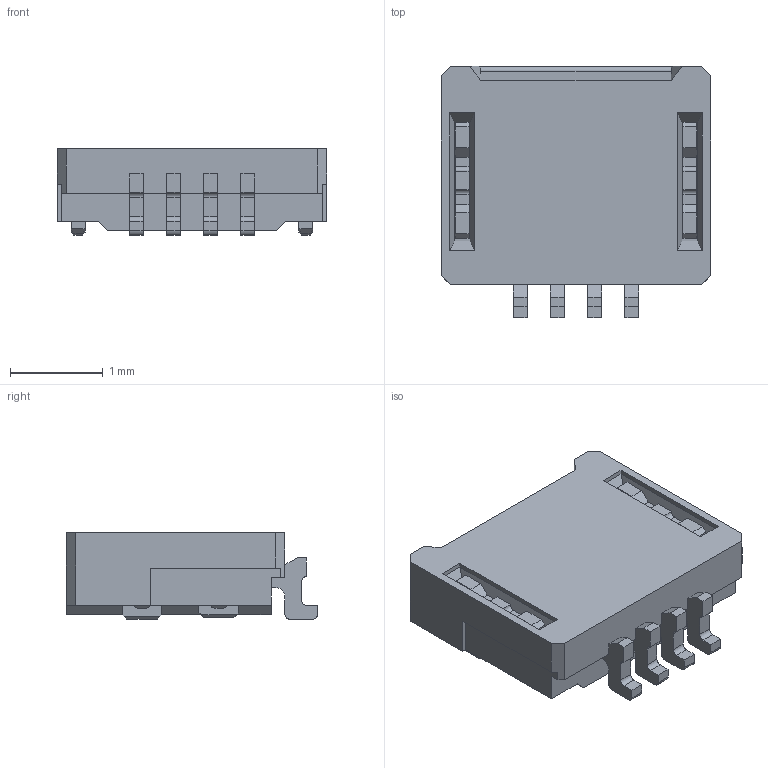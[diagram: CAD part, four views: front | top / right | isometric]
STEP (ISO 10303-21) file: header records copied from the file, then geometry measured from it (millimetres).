
FILE_DESCRIPTION (( 'STEP AP214' ), '1' );
FILE_NAME ('00_6824_604_000_846+.STEP', '2017-07-25T06:57:14', ( 'Asmin' ), ( '' ), 'SwSTEP 2.0', 'SolidWorks 2014', '' );
FILE_SCHEMA (( 'AUTOMOTIVE_DESIGN' ));
Length unit declared in the file: millimetre
Products named in the file (1): 00_6824_604_000_846+
Bounding box: 2.9 x 2.7 x 0.93 mm (x, y, z)
Volume: 4.2 mm3; surface area: 35 mm2
Topology: 1 solids, 1 shells, 198 faces, 566 edges, 372 vertices
Faces by surface type: plane 165, cylinder 33
Entity records: 8220 total; most frequent: CARTESIAN_POINT 1143, ORIENTED_EDGE 1132, DIRECTION 1026, EDGE_CURVE 566, VECTOR 500, LINE 500, VERTEX_POINT 372, AXIS2_PLACEMENT_3D 263
